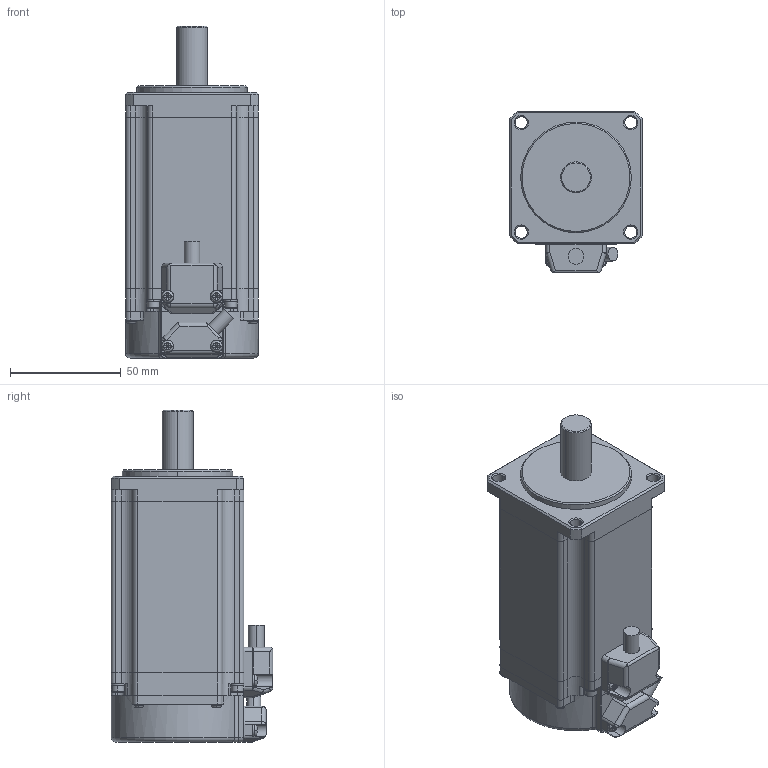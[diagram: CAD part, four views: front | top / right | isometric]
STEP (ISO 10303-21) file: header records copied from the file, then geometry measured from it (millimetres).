
FILE_DESCRIPTION(('Creo Elements/Direct Modeling STEP Export'),'2;1');
FILE_NAME('TS4610_BK無.stp','2016-12-22T16:41:03',(''),(''),'Creo Elements/Direct Modeling STEP processor for AP214 (Solid Model)','Creo Elements/Direct Modeling 17.0F 20-Aug-2012 (C) Parametric Technology GmbH','');
FILE_SCHEMA(('AUTOMOTIVE_DESIGN { 1 0 10303 214 1 1 1 1 }'));
Length unit declared in the file: millimetre
Products named in the file (2): TS4610N1000; Assembly-1
Assembly tree (1 placements, depth 2):
  Assembly-1
    TS4610N1000
Bounding box: 60 x 73 x 150.1 mm (x, y, z)
Volume: 401767.8 mm3; surface area: 38043.4 mm2
Topology: 1 solids, 1 shells, 684 faces, 1594 edges, 907 vertices
Faces by surface type: plane 321, cylinder 223, cone 80, sphere 29, torus 21, bspline 10
Entity records: 19737 total; most frequent: CARTESIAN_POINT 5002, ORIENTED_EDGE 3146, DIRECTION 3073, EDGE_CURVE 1573, AXIS2_PLACEMENT_3D 1204, VERTEX_POINT 907, EDGE_LOOP 708, FACE_OUTER_BOUND 684
